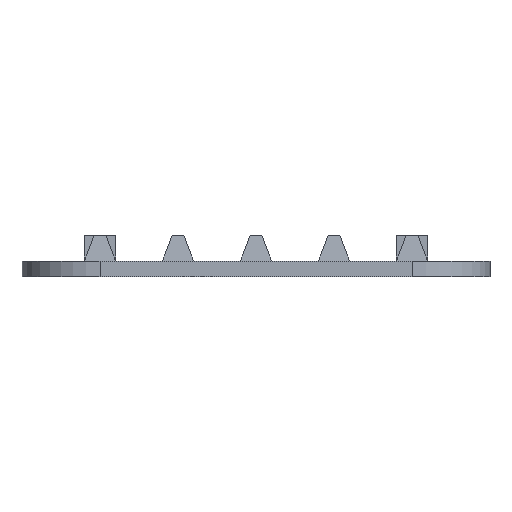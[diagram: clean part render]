
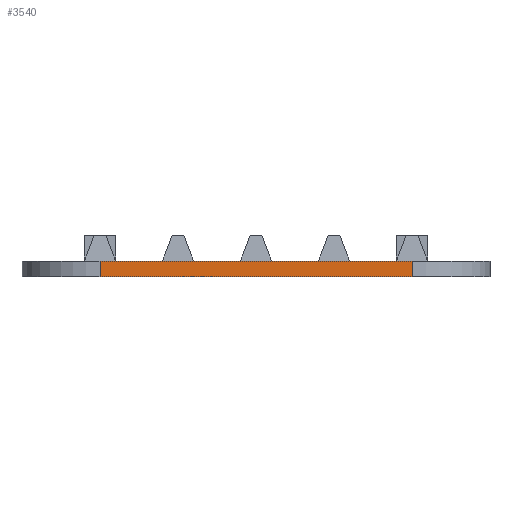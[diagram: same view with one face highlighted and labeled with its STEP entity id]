
A CAD part, front view. The second image highlights one B-rep face of the part: STEP entity #3540.
In plain terms, the highlighted planar face has unit normal (0, -1, 0).
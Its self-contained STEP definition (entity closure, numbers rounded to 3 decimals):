
#289=CARTESIAN_POINT('Vertex',(-20.,-30.,2.)) ;
#292=CARTESIAN_POINT('Line Origine',(0.,-30.,2.)) ;
#296=CARTESIAN_POINT('Vertex',(20.,-30.,2.)) ;
#3431=CARTESIAN_POINT('Vertex',(20.,-30.,0.)) ;
#3434=CARTESIAN_POINT('Line Origine',(0.,-30.,0.)) ;
#3438=CARTESIAN_POINT('Vertex',(-20.,-30.,0.)) ;
#3512=CARTESIAN_POINT('Line Origine',(20.,-30.,1.1)) ;
#3524=CARTESIAN_POINT('Axis2P3D Location',(20.,-30.,0.)) ;
#3529=CARTESIAN_POINT('Line Origine',(-20.,-30.,1.)) ;
#293=DIRECTION('Vector Direction',(-1.,0.,0.)) ;
#3435=DIRECTION('Vector Direction',(-1.,0.,0.)) ;
#3513=DIRECTION('Vector Direction',(0.,0.,1.)) ;
#3525=DIRECTION('Axis2P3D Direction',(0.,1.,-0.)) ;
#3526=DIRECTION('Axis2P3D XDirection',(-1.,0.,0.)) ;
#3530=DIRECTION('Vector Direction',(0.,0.,1.)) ;
#3527=AXIS2_PLACEMENT_3D('Plane Axis2P3D',#3524,#3525,#3526) ;
#3535=ORIENTED_EDGE('',*,*,#3533,.F.) ;
#3536=ORIENTED_EDGE('',*,*,#3440,.T.) ;
#3537=ORIENTED_EDGE('',*,*,#3516,.T.) ;
#3538=ORIENTED_EDGE('',*,*,#298,.F.) ;
#294=VECTOR('Line Direction',#293,1.) ;
#3436=VECTOR('Line Direction',#3435,1.) ;
#3514=VECTOR('Line Direction',#3513,1.) ;
#3531=VECTOR('Line Direction',#3530,1.) ;
#3540=ADVANCED_FACE('PartBody',(#3539),#3528,.F.) ;
#298=EDGE_CURVE('',#290,#297,#295,.F.) ;
#3440=EDGE_CURVE('',#3439,#3432,#3437,.F.) ;
#3516=EDGE_CURVE('',#3432,#297,#3515,.T.) ;
#3533=EDGE_CURVE('',#3439,#290,#3532,.T.) ;
#3534=EDGE_LOOP('',(#3535,#3536,#3537,#3538)) ;
#3539=FACE_OUTER_BOUND('',#3534,.T.) ;
#295=LINE('Line',#292,#294) ;
#3437=LINE('Line',#3434,#3436) ;
#3515=LINE('Line',#3512,#3514) ;
#3532=LINE('Line',#3529,#3531) ;
#3528=PLANE('',#3527) ;
#290=VERTEX_POINT('',#289) ;
#297=VERTEX_POINT('',#296) ;
#3432=VERTEX_POINT('',#3431) ;
#3439=VERTEX_POINT('',#3438) ;
